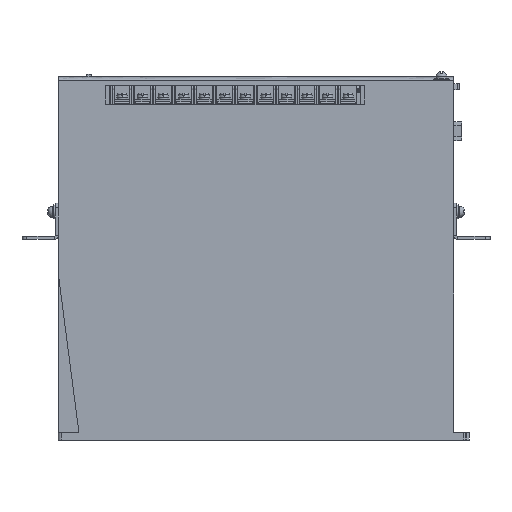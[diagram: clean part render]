
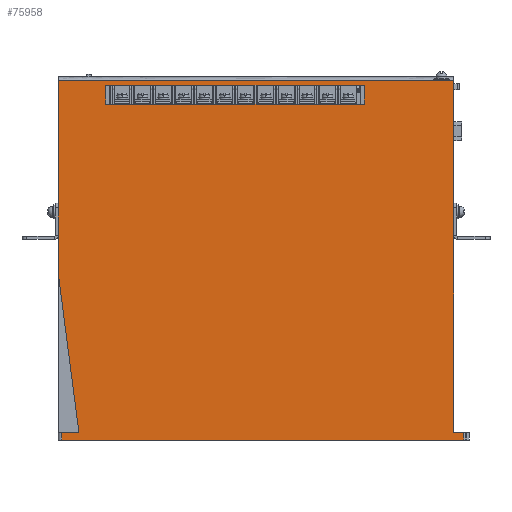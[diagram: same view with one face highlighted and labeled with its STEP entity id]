
A CAD part, left-side view. The second image highlights one B-rep face of the part: STEP entity #75958.
In plain terms, the highlighted planar face has unit normal (-1, 0, 0).
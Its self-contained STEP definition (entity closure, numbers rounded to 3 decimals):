
#69486=DIRECTION('',(0.,0.,-1.));
#69487=VECTOR('',#69486,222.5);
#69488=CARTESIAN_POINT('',(-51.,0.,222.5));
#69489=LINE('',#69488,#69487);
#69490=DIRECTION('',(0.,-1.,0.));
#69491=VECTOR('',#69490,6.5);
#69492=CARTESIAN_POINT('',(-51.,0.,0.));
#69493=LINE('',#69492,#69491);
#69494=DIRECTION('',(0.,1.,0.));
#69495=VECTOR('',#69494,254.5);
#69496=CARTESIAN_POINT('',(-51.,-6.5,-5.));
#69497=LINE('',#69496,#69495);
#69498=DIRECTION('',(0.,-1.,0.));
#69499=VECTOR('',#69498,11.);
#69500=CARTESIAN_POINT('',(-51.,248.,0.));
#69501=LINE('',#69500,#69499);
#69502=DIRECTION('',(0.,0.129,0.992));
#69503=VECTOR('',#69502,100.841);
#69504=CARTESIAN_POINT('',(-51.,237.,0.));
#69505=LINE('',#69504,#69503);
#69506=DIRECTION('',(0.,0.,1.));
#69507=VECTOR('',#69506,122.5);
#69508=CARTESIAN_POINT('',(-51.,250.,100.));
#69509=LINE('',#69508,#69507);
#69510=DIRECTION('',(0.,-1.,0.));
#69511=VECTOR('',#69510,250.);
#69512=CARTESIAN_POINT('',(-51.,250.,222.5));
#69513=LINE('',#69512,#69511);
#70258=DIRECTION('',(0.,0.,1.));
#70259=VECTOR('',#70258,5.);
#70260=CARTESIAN_POINT('',(-51.,-6.5,-5.));
#70261=LINE('',#70260,#70259);
#70338=DIRECTION('',(0.,0.,-1.));
#70339=VECTOR('',#70338,5.);
#70340=CARTESIAN_POINT('',(-51.,248.,0.));
#70341=LINE('',#70340,#70339);
#71794=DIRECTION('',(0.,1.,0.));
#71795=VECTOR('',#71794,163.4);
#71796=CARTESIAN_POINT('',(-51.,56.6,207.5));
#71797=LINE('',#71796,#71795);
#71798=DIRECTION('',(0.,0.,1.));
#71799=VECTOR('',#71798,12.);
#71800=CARTESIAN_POINT('',(-51.,220.,207.5));
#71801=LINE('',#71800,#71799);
#71806=DIRECTION('',(0.,-1.,0.));
#71807=VECTOR('',#71806,163.4);
#71808=CARTESIAN_POINT('',(-51.,220.,219.5));
#71809=LINE('',#71808,#71807);
#71814=DIRECTION('',(0.,0.,-1.));
#71815=VECTOR('',#71814,12.);
#71816=CARTESIAN_POINT('',(-51.,56.6,219.5));
#71817=LINE('',#71816,#71815);
#73580=CARTESIAN_POINT('',(-51.,0.,222.5));
#73581=VERTEX_POINT('',#73580);
#73582=CARTESIAN_POINT('',(-51.,250.,222.5));
#73583=VERTEX_POINT('',#73582);
#73883=CARTESIAN_POINT('',(-51.,250.,100.));
#73884=VERTEX_POINT('',#73883);
#73969=CARTESIAN_POINT('',(-51.,-6.5,0.));
#73970=VERTEX_POINT('',#73969);
#73971=CARTESIAN_POINT('',(-51.,0.,0.));
#73972=VERTEX_POINT('',#73971);
#74005=CARTESIAN_POINT('',(-51.,248.,0.));
#74006=CARTESIAN_POINT('',(-51.,237.,0.));
#74007=VERTEX_POINT('',#74005);
#74008=VERTEX_POINT('',#74006);
#74057=CARTESIAN_POINT('',(-51.,248.,-5.));
#74058=VERTEX_POINT('',#74057);
#74059=CARTESIAN_POINT('',(-51.,-6.5,-5.));
#74060=VERTEX_POINT('',#74059);
#74354=CARTESIAN_POINT('',(-51.,56.6,207.5));
#74355=CARTESIAN_POINT('',(-51.,220.,207.5));
#74356=VERTEX_POINT('',#74354);
#74357=VERTEX_POINT('',#74355);
#74358=CARTESIAN_POINT('',(-51.,56.6,219.5));
#74359=VERTEX_POINT('',#74358);
#74360=CARTESIAN_POINT('',(-51.,220.,219.5));
#74361=VERTEX_POINT('',#74360);
#75927=CARTESIAN_POINT('',(-51.,121.75,108.75));
#75928=DIRECTION('',(1.,0.,0.));
#75929=DIRECTION('',(0.,-1.,0.));
#75930=AXIS2_PLACEMENT_3D('',#75927,#75928,#75929);
#75931=PLANE('',#75930);
#75933=ORIENTED_EDGE('',*,*,#75932,.T.);
#75935=ORIENTED_EDGE('',*,*,#75934,.T.);
#75937=ORIENTED_EDGE('',*,*,#75936,.F.);
#75939=ORIENTED_EDGE('',*,*,#75938,.T.);
#75941=ORIENTED_EDGE('',*,*,#75940,.F.);
#75942=ORIENTED_EDGE('',*,*,#75900,.T.);
#75943=ORIENTED_EDGE('',*,*,#75922,.T.);
#75944=ORIENTED_EDGE('',*,*,#75812,.T.);
#75945=ORIENTED_EDGE('',*,*,#75005,.T.);
#75946=EDGE_LOOP('',(#75933,#75935,#75937,#75939,#75941,#75942,#75943,#75944,
#75945));
#75947=FACE_OUTER_BOUND('',#75946,.F.);
#75949=ORIENTED_EDGE('',*,*,#75948,.F.);
#75951=ORIENTED_EDGE('',*,*,#75950,.F.);
#75953=ORIENTED_EDGE('',*,*,#75952,.F.);
#75955=ORIENTED_EDGE('',*,*,#75954,.F.);
#75956=EDGE_LOOP('',(#75949,#75951,#75953,#75955));
#75957=FACE_BOUND('',#75956,.F.);
#75005=EDGE_CURVE('',#73583,#73581,#69513,.T.);
#75812=EDGE_CURVE('',#73884,#73583,#69509,.T.);
#75900=EDGE_CURVE('',#74007,#74008,#69501,.T.);
#75922=EDGE_CURVE('',#74008,#73884,#69505,.T.);
#75932=EDGE_CURVE('',#73581,#73972,#69489,.T.);
#75934=EDGE_CURVE('',#73972,#73970,#69493,.T.);
#75936=EDGE_CURVE('',#74060,#73970,#70261,.T.);
#75938=EDGE_CURVE('',#74060,#74058,#69497,.T.);
#75940=EDGE_CURVE('',#74007,#74058,#70341,.T.);
#75948=EDGE_CURVE('',#74356,#74357,#71797,.T.);
#75950=EDGE_CURVE('',#74359,#74356,#71817,.T.);
#75952=EDGE_CURVE('',#74361,#74359,#71809,.T.);
#75954=EDGE_CURVE('',#74357,#74361,#71801,.T.);
#75958=ADVANCED_FACE('',(#75947,#75957),#75931,.F.);
